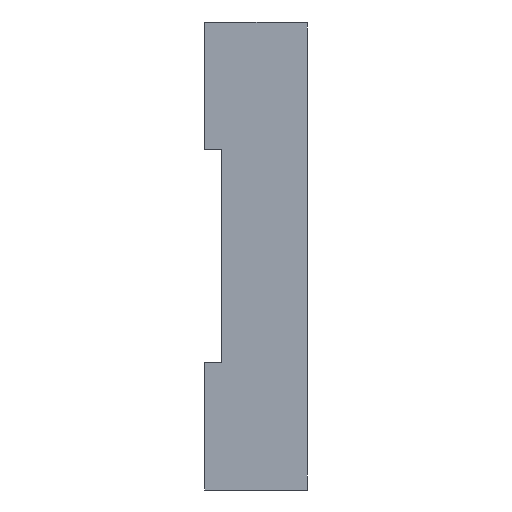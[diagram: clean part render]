
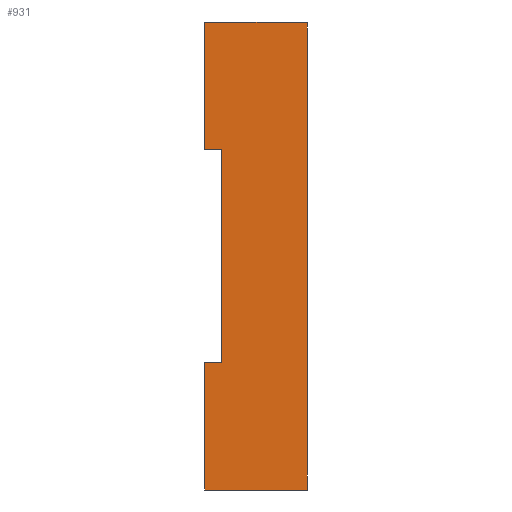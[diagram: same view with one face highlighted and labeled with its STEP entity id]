
A CAD part, left-side view. The second image highlights one B-rep face of the part: STEP entity #931.
In plain terms, the highlighted planar face has unit normal (-1, 0, 0).
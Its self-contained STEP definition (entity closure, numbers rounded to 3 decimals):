
#11 = EDGE_CURVE ( 'NONE', #2101, #2091, #371, .T. ) ;
#355 = ORIENTED_EDGE ( 'NONE', *, *, #780, .F. ) ;
#371 = LINE ( 'NONE', #767, #376 ) ;
#376 = VECTOR ( 'NONE', #769, 1000. ) ;
#452 = VECTOR ( 'NONE', #1527, 1000. ) ;
#454 = LINE ( 'NONE', #1531, #458 ) ;
#455 = LINE ( 'NONE', #1524, #464 ) ;
#457 = LINE ( 'NONE', #1525, #462 ) ;
#458 = VECTOR ( 'NONE', #1537, 1000. ) ;
#459 = LINE ( 'NONE', #1536, #470 ) ;
#461 = LINE ( 'NONE', #1532, #452 ) ;
#462 = VECTOR ( 'NONE', #1526, 1000. ) ;
#463 = LINE ( 'NONE', #1540, #466 ) ;
#464 = VECTOR ( 'NONE', #1539, 1000. ) ;
#465 = LINE ( 'NONE', #1542, #468 ) ;
#466 = VECTOR ( 'NONE', #1541, 1000. ) ;
#468 = VECTOR ( 'NONE', #1544, 1000. ) ;
#470 = VECTOR ( 'NONE', #1545, 1000. ) ;
#569 = FACE_OUTER_BOUND ( 'NONE', #2024, .T. ) ;
#667 = AXIS2_PLACEMENT_3D ( 'NONE', #1238, #1247, #1248 ) ;
#767 = CARTESIAN_POINT ( 'NONE',  ( -44., 10., -27.5 ) ) ;
#769 = DIRECTION ( 'NONE',  ( 0., 0., 1. ) ) ;
#777 = EDGE_CURVE ( 'NONE', #2053, #2069, #457, .T. ) ;
#780 = EDGE_CURVE ( 'NONE', #2050, #2069, #461, .T. ) ;
#781 = EDGE_CURVE ( 'NONE', #2060, #2050, #454, .T. ) ;
#782 = EDGE_CURVE ( 'NONE', #2060, #2091, #455, .T. ) ;
#783 = EDGE_CURVE ( 'NONE', #2057, #2101, #463, .T. ) ;
#784 = EDGE_CURVE ( 'NONE', #2061, #2057, #465, .T. ) ;
#785 = EDGE_CURVE ( 'NONE', #2061, #2053, #459, .T. ) ;
#931 = ADVANCED_FACE ( 'NONE', ( #569 ), #1245, .F. ) ;
#1076 = CARTESIAN_POINT ( 'NONE',  ( -44., 12., 27.5 ) ) ;
#1079 = CARTESIAN_POINT ( 'NONE',  ( -44., 0., -27.5 ) ) ;
#1083 = CARTESIAN_POINT ( 'NONE',  ( -44., 12., -12.5 ) ) ;
#1086 = CARTESIAN_POINT ( 'NONE',  ( -44., 12., 12.5 ) ) ;
#1087 = CARTESIAN_POINT ( 'NONE',  ( -44., 12., -27.5 ) ) ;
#1095 = CARTESIAN_POINT ( 'NONE',  ( -44., 0., 27.5 ) ) ;
#1117 = CARTESIAN_POINT ( 'NONE',  ( -44., 10., 12.5 ) ) ;
#1127 = CARTESIAN_POINT ( 'NONE',  ( -44., 10., -12.5 ) ) ;
#1238 = CARTESIAN_POINT ( 'NONE',  ( -44., 10., -27.5 ) ) ;
#1245 = PLANE ( 'NONE',  #667 ) ;
#1247 = DIRECTION ( 'NONE',  ( 1., 0., 0. ) ) ;
#1248 = DIRECTION ( 'NONE',  ( 0., 0., -1. ) ) ;
#1524 = CARTESIAN_POINT ( 'NONE',  ( -44., 12., 12.5 ) ) ;
#1525 = CARTESIAN_POINT ( 'NONE',  ( -44., 0., -27.5 ) ) ;
#1526 = DIRECTION ( 'NONE',  ( 0., 0., 1. ) ) ;
#1527 = DIRECTION ( 'NONE',  ( 0., -1., 0. ) ) ;
#1531 = CARTESIAN_POINT ( 'NONE',  ( -44., 12., 27.5 ) ) ;
#1532 = CARTESIAN_POINT ( 'NONE',  ( -44., 10., 27.5 ) ) ;
#1536 = CARTESIAN_POINT ( 'NONE',  ( -44., 10., -27.5 ) ) ;
#1537 = DIRECTION ( 'NONE',  ( 0., 0., 1. ) ) ;
#1539 = DIRECTION ( 'NONE',  ( 0., -1., 0. ) ) ;
#1540 = CARTESIAN_POINT ( 'NONE',  ( -44., 12., -12.5 ) ) ;
#1541 = DIRECTION ( 'NONE',  ( 0., -1., 0. ) ) ;
#1542 = CARTESIAN_POINT ( 'NONE',  ( -44., 12., -27.5 ) ) ;
#1544 = DIRECTION ( 'NONE',  ( 0., 0., 1. ) ) ;
#1545 = DIRECTION ( 'NONE',  ( 0., -1., 0. ) ) ;
#1812 = ORIENTED_EDGE ( 'NONE', *, *, #777, .T. ) ;
#1818 = ORIENTED_EDGE ( 'NONE', *, *, #785, .T. ) ;
#1889 = ORIENTED_EDGE ( 'NONE', *, *, #783, .F. ) ;
#1905 = ORIENTED_EDGE ( 'NONE', *, *, #11, .F. ) ;
#1906 = ORIENTED_EDGE ( 'NONE', *, *, #782, .T. ) ;
#1907 = ORIENTED_EDGE ( 'NONE', *, *, #784, .F. ) ;
#1908 = ORIENTED_EDGE ( 'NONE', *, *, #781, .F. ) ;
#2024 = EDGE_LOOP ( 'NONE', ( #1812, #355, #1908, #1906, #1905, #1889, #1907, #1818 ) ) ;
#2050 = VERTEX_POINT ( 'NONE', #1076 ) ;
#2053 = VERTEX_POINT ( 'NONE', #1079 ) ;
#2057 = VERTEX_POINT ( 'NONE', #1083 ) ;
#2060 = VERTEX_POINT ( 'NONE', #1086 ) ;
#2061 = VERTEX_POINT ( 'NONE', #1087 ) ;
#2069 = VERTEX_POINT ( 'NONE', #1095 ) ;
#2091 = VERTEX_POINT ( 'NONE', #1117 ) ;
#2101 = VERTEX_POINT ( 'NONE', #1127 ) ;
